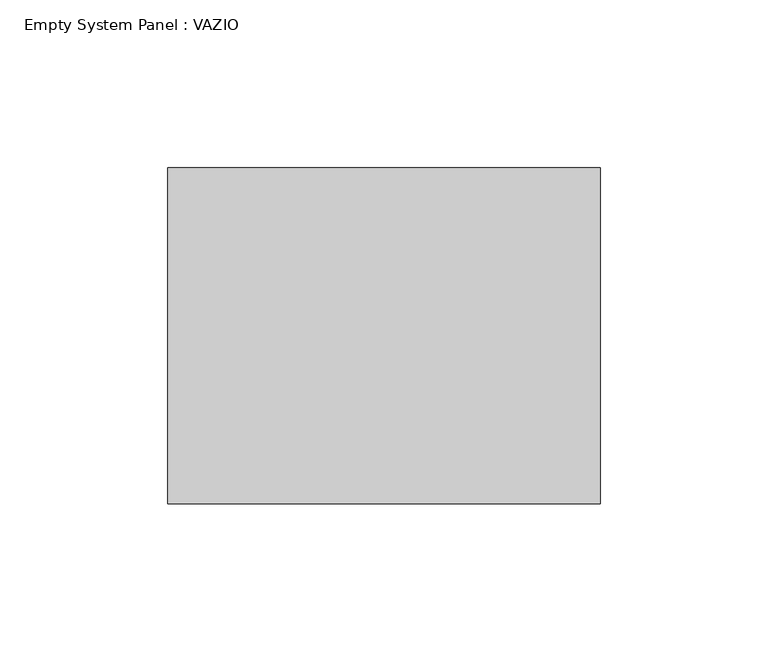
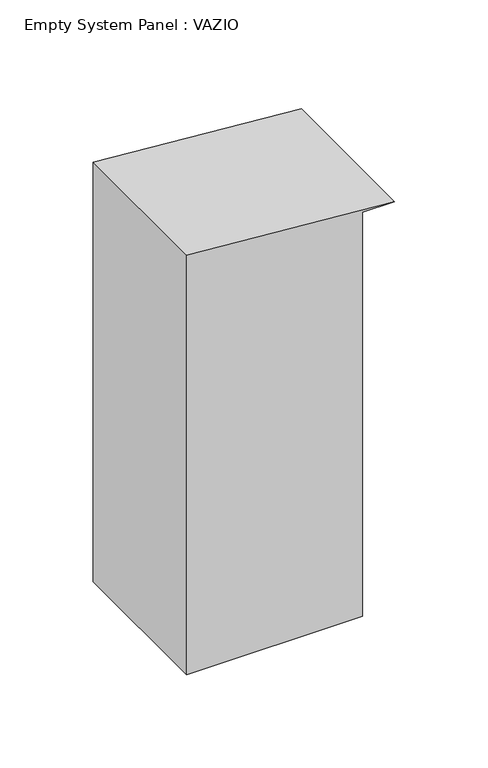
"""IFC4 building model written with IfcOpenShell, lengths in millimetres: plate geometry, Empty System Panel : VAZIO."""

from ifc_helpers import new_model, si_unit, point, frame, frame_2d, origin, place, context, project, spatial, polyline, circle_curve, trimmed, segment, composite_curve, outline, extrude, source, transform, mapped, element, save


def empty_system_panel_vazio_7f4cb676(model_context):
    return source(origin(), model_context, "Body", "SweptSolid", [
        extrude(outline(composite_curve([segment(polyline([(0.0, -64.3902439), (0.0, 44.3902439), (264.2724237, 44.3902439), (264.2724237, 64.3902439)]), True, "CONTINUOUS"), segment(trimmed(circle_curve(frame_2d((-2933.8559746, -253.1707317)), 3213.8559746), [point((264.2724237, 64.3902439))], [point((274.4507677, -64.3902439))], False, "CARTESIAN"), True, "CONTINUOUS"), segment(polyline([(274.4507677, -64.3902439), (0.0, -64.3902439)]), True, "CONTINUOUS")], self_intersect=False)), frame((0.0, -50.0, 0.0), z_axis=(0.0, 1.0, 0.0), x_axis=(0.0, 0.0, 1.0)), (0.0, 0.0, 1.0), 100.0),
    ])


if __name__ == "__main__":
    model = new_model("IFC4")
    model_context = context("Model", 3, world=origin())
    ifc_project = project(units=[si_unit("LENGTHUNIT", "METRE", prefix="MILLI")], contexts=[model_context])
    site = spatial("IfcSite", under=ifc_project)
    building = spatial("IfcBuilding", under=site)
    placement = place(None, origin())
    empty_system_panel_vazio_shape = empty_system_panel_vazio_7f4cb676(model_context)
    element("IfcPlate", 1, ObjectType="Empty System Panel : VAZIO", at=placement, inside=building, context=model_context, shape_type="MappedRepresentation", body=[
        mapped(empty_system_panel_vazio_shape, transform((0.0, 0.0, 0.0), x_axis=(1.0, 0.0, 0.0), y_axis=(0.0, 1.0, 0.0), z_axis=(0.0, 0.0, 1.0))),
    ])
    save(model, "model.ifc")
